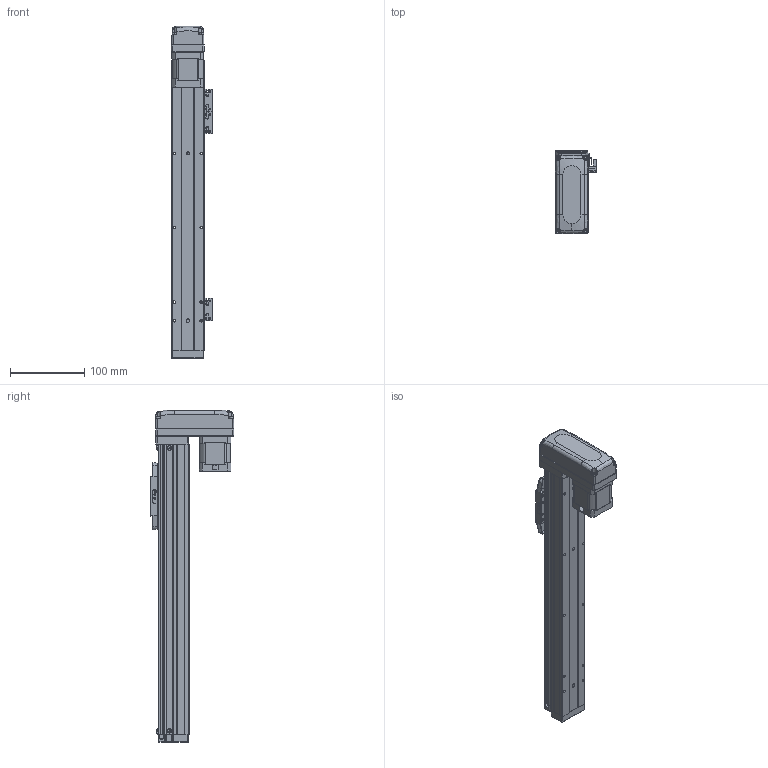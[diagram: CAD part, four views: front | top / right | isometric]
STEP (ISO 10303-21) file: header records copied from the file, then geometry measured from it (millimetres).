
FILE_DESCRIPTION (( 'STEP AP203' ), '1' );
FILE_NAME ('GTH4-250-BM-B42-C4.step', '2023-02-14T00:20:47', ( '微软用户' ), ( '微软中国' ), 'SwSTEP 2.0', 'SolidWorks 2020', '' );
FILE_SCHEMA (( 'CONFIG_CONTROL_DESIGN' ));
Length unit declared in the file: millimetre
Products named in the file (19): BTH40-001-50_BTH40-001-250; BTH50-024; GBT 70.3-M3℅6; BTH40-003; GBT 70.1-M3℅6; BTH40-027-1; BTH40-006; GBT96.1-2002 3×0.8; BTH50-026; BTH-M3X5X6; BTH40-022; 42CM06; GBT70.1-2000 M3×16; GBT 70.1-M2.5×6; GTH4-250-BM-B42-C4; BTH50-028; BTH40-004; BTH50-023; BTH40-013
Assembly tree (47 placements, depth 2):
  GTH4-250-BM-B42-C4
    BTH40-001-50_BTH40-001-250
    BTH40-003
    BTH40-006
    BTH-M3X5X6  x8
    GBT70.1-2000 M3×16  x4
    BTH50-028  x2
    BTH50-023  x3
    BTH50-024  x3
    GBT 70.1-M3℅6  x6
    GBT96.1-2002 3×0.8  x6
    BTH40-022
    GBT 70.1-M2.5×6  x2
    BTH40-004
    BTH40-013
    GBT 70.3-M3℅6  x4
    BTH40-027-1
    BTH50-026
    42CM06
Bounding box: 55.2 x 112 x 446 mm (x, y, z)
Volume: 856138 mm3; surface area: 188601 mm2
Topology: 56 solids, 56 shells, 3331 faces, 7760 edges, 4638 vertices
Faces by surface type: cone 1508, plane 1076, cylinder 569, torus 124, bspline 42, sphere 12
Entity records: 77742 total; most frequent: CARTESIAN_POINT 14017, DIRECTION 13817, ORIENTED_EDGE 12166, EDGE_CURVE 6083, AXIS2_PLACEMENT_3D 5301, VERTEX_POINT 3625, LINE 3215, VECTOR 3215
